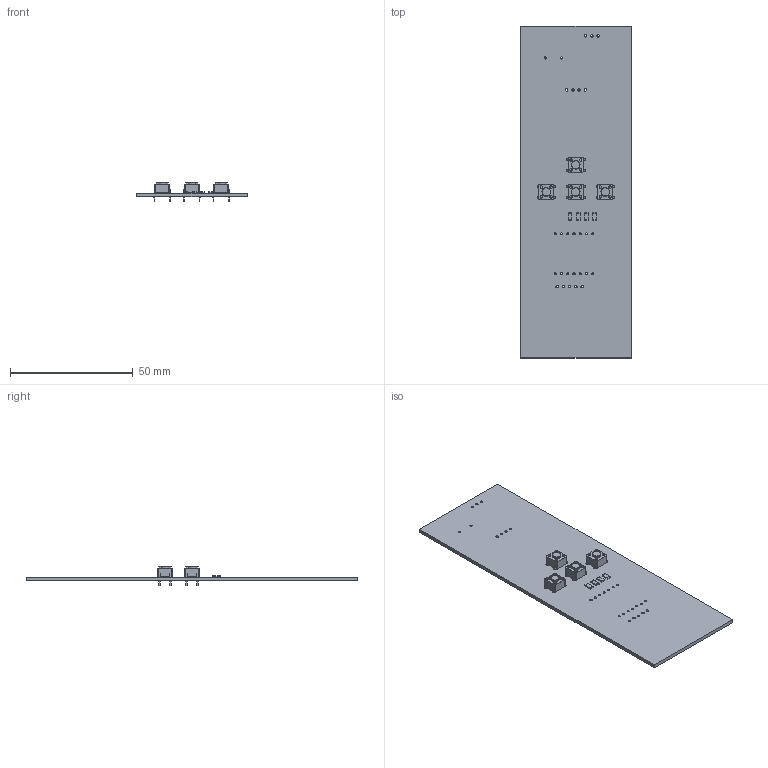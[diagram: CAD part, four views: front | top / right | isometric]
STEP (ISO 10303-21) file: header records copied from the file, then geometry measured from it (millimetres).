
FILE_DESCRIPTION(('KiCad electronic assembly'),'2;1');
FILE_NAME('SadiqPhone.step','2025-11-18T21:33:44',('Pcbnew'),('Kicad'), 'Open CASCADE STEP processor 7.9','KiCad to STEP converter','Unknown' );
FILE_SCHEMA(('AUTOMOTIVE_DESIGN { 1 0 10303 214 1 1 1 1 }'));
Length unit declared in the file: millimetre
Products named in the file (4): SadiqPhone 1; R_1206_3216Metric; SW_PUSH_6mm; SadiqPhone_PCB
Assembly tree (9 placements, depth 2):
  SadiqPhone 1
    R_1206_3216Metric  x4
    SW_PUSH_6mm  x4
    SadiqPhone_PCB
Bounding box: 45 x 135 x 7.8 mm (x, y, z)
Volume: 9699.5 mm3; surface area: 13705.7 mm2
Topology: 9 solids, 9 shells, 574 faces, 1524 edges, 988 vertices
Faces by surface type: plane 330, cylinder 240, torus 4
Full cylindrical faces by diameter (mm): 0.85 x16, 1 x23, 1.02 x5, 1.1 x16, 3.5 x4
Entity records: 6935 total; most frequent: DIRECTION 1055, CARTESIAN_POINT 999, ORIENTED_EDGE 978, EDGE_CURVE 489, AXIS2_PLACEMENT_3D 375, VERTEX_POINT 319, LINE 305, VECTOR 305
